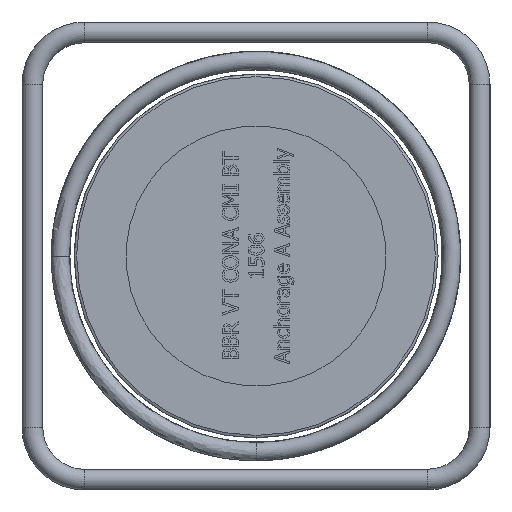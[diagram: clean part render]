
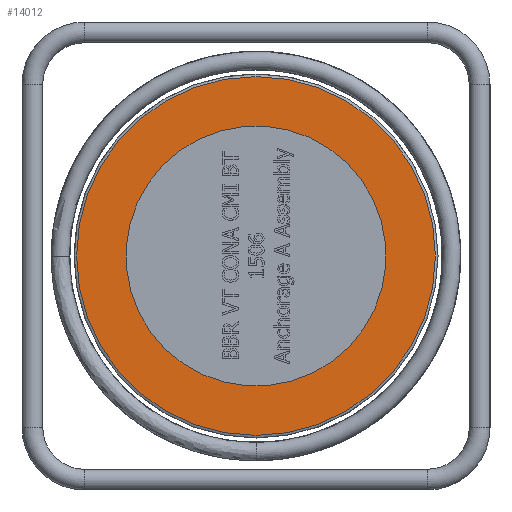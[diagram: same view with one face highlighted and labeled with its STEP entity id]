
A CAD part, left-side view. The second image highlights one B-rep face of the part: STEP entity #14012.
In plain terms, the highlighted planar face has unit normal (-1, 0, 0).
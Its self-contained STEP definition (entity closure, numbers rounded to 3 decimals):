
#3446=PLANE('',#14543);
#3580=FACE_BOUND('',#5159,.T.);
#4298=FACE_OUTER_BOUND('',#5158,.T.);
#5158=EDGE_LOOP('',(#12073));
#5159=EDGE_LOOP('',(#12074));
#5424=CIRCLE('',#14539,100.);
#5427=CIRCLE('',#14544,138.);
#6692=VERTEX_POINT('',#24349);
#6699=VERTEX_POINT('',#24408);
#8519=EDGE_CURVE('',#6692,#6692,#5424,.T.);
#8526=EDGE_CURVE('',#6699,#6699,#5427,.T.);
#12073=ORIENTED_EDGE('',*,*,#8526,.T.);
#12074=ORIENTED_EDGE('',*,*,#8519,.T.);
#14012=ADVANCED_FACE('',(#4298,#3580),#3446,.T.);
#14539=AXIS2_PLACEMENT_3D('',#24350,#16616,#16617);
#14543=AXIS2_PLACEMENT_3D('',#24407,#16625,#16626);
#14544=AXIS2_PLACEMENT_3D('',#24409,#16627,#16628);
#16616=DIRECTION('center_axis',(1.,0.,0.));
#16617=DIRECTION('ref_axis',(0.,0.913,0.408));
#16625=DIRECTION('center_axis',(-1.,0.,0.));
#16626=DIRECTION('ref_axis',(0.,1.,0.));
#16627=DIRECTION('center_axis',(-1.,0.,0.));
#16628=DIRECTION('ref_axis',(0.,0.,
1.));
#24349=CARTESIAN_POINT('',(-161.995,-40.834,91.283));
#24350=CARTESIAN_POINT('Origin',(-161.995,0.,
0.));
#24407=CARTESIAN_POINT('Origin',(-161.995,0.,
110.));
#24408=CARTESIAN_POINT('',(-161.995,0.,138.));
#24409=CARTESIAN_POINT('Origin',(-161.995,0.,
0.));
